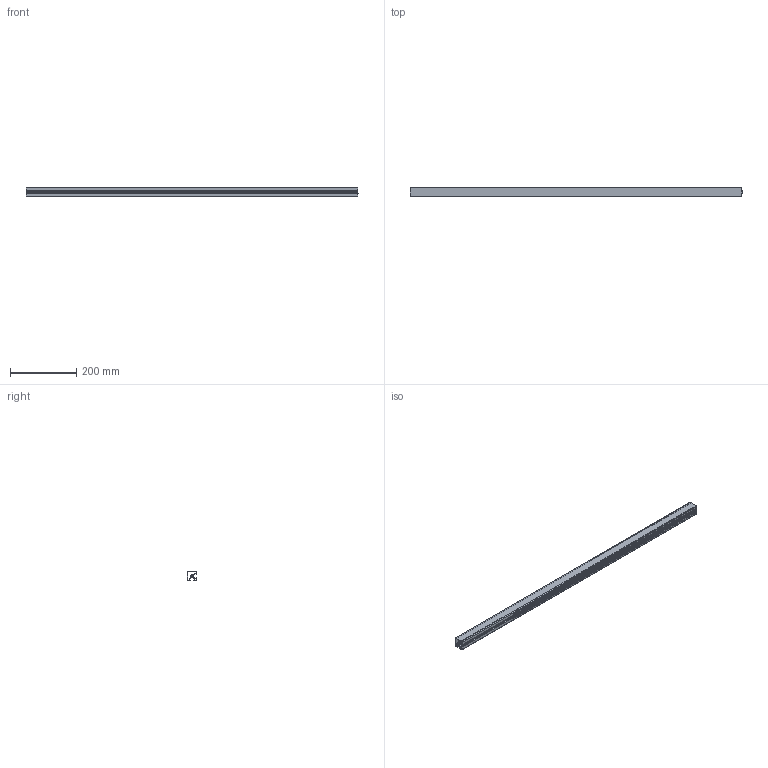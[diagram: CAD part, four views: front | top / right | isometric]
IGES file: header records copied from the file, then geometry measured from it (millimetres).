
Start section: SolidWorks IGES file using analytic representation for surfaces
Bounding box: 1000 x 30 x 30 mm (x, y, z)
Surface area: 307744.6 mm2 (no closed solid volume)
Topology: 0 solids, 0 shells, 95 faces, 1006 edges, 1006 vertices
Faces by surface type: revolution 54, bspline 41
